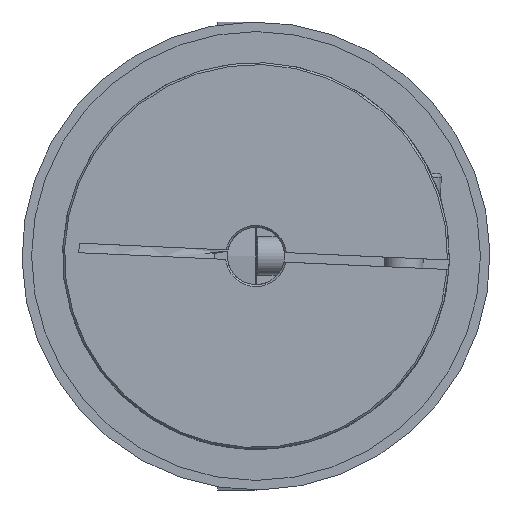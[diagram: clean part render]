
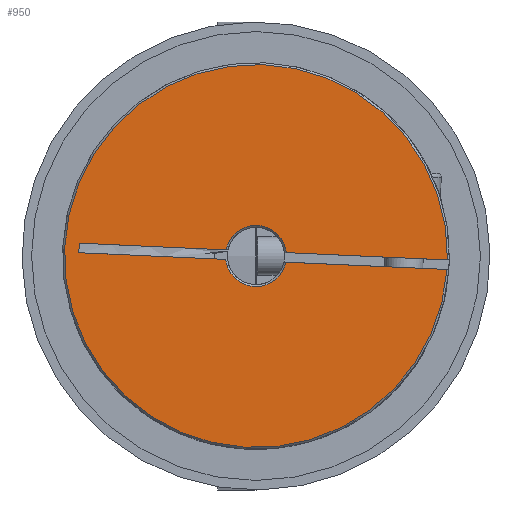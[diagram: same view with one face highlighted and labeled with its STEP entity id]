
A CAD part, left-side view. The second image highlights one B-rep face of the part: STEP entity #950.
In plain terms, the highlighted planar face has unit normal (-1, 0, 0).
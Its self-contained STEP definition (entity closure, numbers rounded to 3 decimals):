
#950 = ADVANCED_FACE( 'NONE', ( #1543 ), #1544, .F. );
#1543 = FACE_OUTER_BOUND( '', #1970, .T. );
#1544 = PLANE( '', #1971 );
#1970 = EDGE_LOOP( '', ( #2764, #2765, #2766, #2767, #2768, #2769, #2770, #2771 ) );
#1971 = AXIS2_PLACEMENT_3D( '', #2772, #2773, #2774 );
#2764 = ORIENTED_EDGE( '', *, *, #3361, .T. );
#2765 = ORIENTED_EDGE( '', *, *, #3362, .T. );
#2766 = ORIENTED_EDGE( '', *, *, #3363, .T. );
#2767 = ORIENTED_EDGE( '', *, *, #3364, .T. );
#2768 = ORIENTED_EDGE( '', *, *, #3365, .F. );
#2769 = ORIENTED_EDGE( '', *, *, #3366, .T. );
#2770 = ORIENTED_EDGE( '', *, *, #3367, .F. );
#2771 = ORIENTED_EDGE( '', *, *, #3368, .T. );
#2772 = CARTESIAN_POINT( '', ( 0., 3., 0. ) );
#2773 = DIRECTION( '', ( 1., 0., 0. ) );
#2774 = DIRECTION( '', ( 0., 1., 0. ) );
#3361 = EDGE_CURVE( 'NONE', #3868, #3869, #3870, .T. );
#3362 = EDGE_CURVE( 'NONE', #3869, #3871, #3872, .T. );
#3363 = EDGE_CURVE( 'NONE', #3871, #3873, #3874, .T. );
#3364 = EDGE_CURVE( 'NONE', #3873, #3875, #3876, .F. );
#3365 = EDGE_CURVE( 'NONE', #3877, #3875, #3878, .F. );
#3366 = EDGE_CURVE( 'NONE', #3877, #3879, #3880, .T. );
#3367 = EDGE_CURVE( 'NONE', #3881, #3879, #3882, .F. );
#3368 = EDGE_CURVE( 'NONE', #3881, #3868, #3883, .T. );
#3868 = VERTEX_POINT( 'NONE', #4641 );
#3869 = VERTEX_POINT( 'NONE', #4642 );
#3870 = LINE( '', #4643, #4644 );
#3871 = VERTEX_POINT( 'NONE', #4645 );
#3872 = CIRCLE( '', #4646, 3.2 );
#3873 = VERTEX_POINT( 'NONE', #4647 );
#3874 = LINE( '', #4648, #4649 );
#3875 = VERTEX_POINT( 'NONE', #4650 );
#3876 = CIRCLE( '', #4651, 20.05 );
#3877 = VERTEX_POINT( 'NONE', #4652 );
#3878 = LINE( '', #4653, #4654 );
#3879 = VERTEX_POINT( 'NONE', #4655 );
#3880 = CIRCLE( '', #4656, 3.2 );
#3881 = VERTEX_POINT( 'NONE', #4657 );
#3882 = LINE( '', #4658, #4659 );
#3883 = LINE( '', #4660, #4661 );
#4641 = CARTESIAN_POINT( '', ( 0., 18.545, 0.5 ) );
#4642 = CARTESIAN_POINT( '', ( 0., 3.161, 0.5 ) );
#4643 = CARTESIAN_POINT( '', ( 0., 3., 0.5 ) );
#4644 = VECTOR( '', #5203, 1000. );
#4645 = CARTESIAN_POINT( '', ( 0., -3.161, 0.5 ) );
#4646 = AXIS2_PLACEMENT_3D( '', #5204, #5205, #5206 );
#4647 = CARTESIAN_POINT( '', ( 0., -20.044, 0.5 ) );
#4648 = CARTESIAN_POINT( '', ( 0., 3., 0.5 ) );
#4649 = VECTOR( '', #5207, 1000. );
#4650 = CARTESIAN_POINT( '', ( 0., -20.044, -0.5 ) );
#4651 = AXIS2_PLACEMENT_3D( '', #5208, #5209, #5210 );
#4652 = CARTESIAN_POINT( '', ( 0., -3.161, -0.5 ) );
#4653 = CARTESIAN_POINT( '', ( 0., -3.5, -0.5 ) );
#4654 = VECTOR( '', #5211, 1000. );
#4655 = CARTESIAN_POINT( '', ( 0., 3.161, -0.5 ) );
#4656 = AXIS2_PLACEMENT_3D( '', #5212, #5213, #5214 );
#4657 = CARTESIAN_POINT( '', ( 0., 18.545, -0.5 ) );
#4658 = CARTESIAN_POINT( '', ( 0., -3.5, -0.5 ) );
#4659 = VECTOR( '', #5215, 1000. );
#4660 = CARTESIAN_POINT( '', ( 0., 18.545, -0.5 ) );
#4661 = VECTOR( '', #5216, 1000. );
#5203 = DIRECTION( '', ( 0., -1., 0. ) );
#5204 = CARTESIAN_POINT( '', ( 0., 0., 0. ) );
#5205 = DIRECTION( '', ( 1., 0., 0. ) );
#5206 = DIRECTION( '', ( 0., 0., -1. ) );
#5207 = DIRECTION( '', ( 0., -1., 0. ) );
#5208 = CARTESIAN_POINT( '', ( 0., 0., 0. ) );
#5209 = DIRECTION( '', ( 1., 0., 0. ) );
#5210 = DIRECTION( '', ( 0., 0., -1. ) );
#5211 = DIRECTION( '', ( 0., 1., 0. ) );
#5212 = CARTESIAN_POINT( '', ( 0., 0., 0. ) );
#5213 = DIRECTION( '', ( 1., 0., 0. ) );
#5214 = DIRECTION( '', ( 0., 0., -1. ) );
#5215 = DIRECTION( '', ( 0., 1., 0. ) );
#5216 = DIRECTION( '', ( 0., 0., 1. ) );
